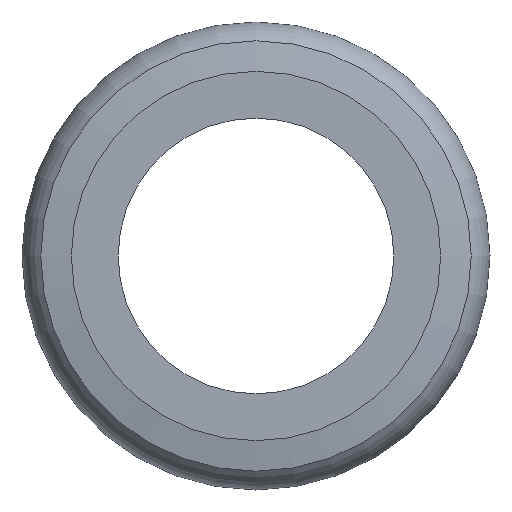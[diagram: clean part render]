
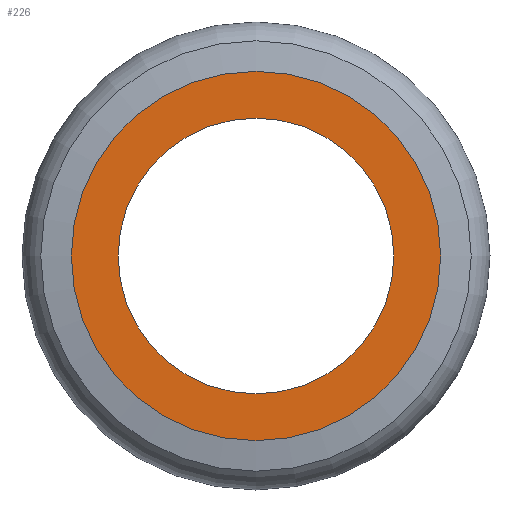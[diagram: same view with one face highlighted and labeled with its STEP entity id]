
A CAD part, front view. The second image highlights one B-rep face of the part: STEP entity #226.
In plain terms, the highlighted planar face has unit normal (0, -1, 0).
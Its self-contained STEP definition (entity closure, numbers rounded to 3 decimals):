
#17=FACE_BOUND('',#76,.T.);
#21=PLANE('',#280);
#58=FACE_OUTER_BOUND('',#75,.T.);
#75=EDGE_LOOP('',(#199));
#76=EDGE_LOOP('',(#200));
#99=CIRCLE('',#279,13.25);
#100=CIRCLE('',#281,17.75);
#119=VERTEX_POINT('',#423);
#120=VERTEX_POINT('',#427);
#147=EDGE_CURVE('',#119,#119,#99,.T.);
#148=EDGE_CURVE('',#120,#120,#100,.T.);
#199=ORIENTED_EDGE('',*,*,#148,.F.);
#200=ORIENTED_EDGE('',*,*,#147,.T.);
#226=ADVANCED_FACE('',(#58,#17),#21,.T.);
#279=AXIS2_PLACEMENT_3D('',#425,#354,#355);
#280=AXIS2_PLACEMENT_3D('',#426,#356,#357);
#281=AXIS2_PLACEMENT_3D('',#428,#358,#359);
#354=DIRECTION('center_axis',(0.,1.,0.));
#355=DIRECTION('ref_axis',(1.,0.,0.));
#356=DIRECTION('center_axis',(0.,-1.,0.));
#357=DIRECTION('ref_axis',(0.,0.,-1.));
#358=DIRECTION('center_axis',(0.,1.,0.));
#359=DIRECTION('ref_axis',(1.,0.,0.));
#423=CARTESIAN_POINT('',(13.25,0.,0.));
#425=CARTESIAN_POINT('Origin',(0.,0.,0.));
#426=CARTESIAN_POINT('Origin',(-17.75,0.,0.));
#427=CARTESIAN_POINT('',(17.75,0.,0.));
#428=CARTESIAN_POINT('Origin',(0.,0.,0.));
